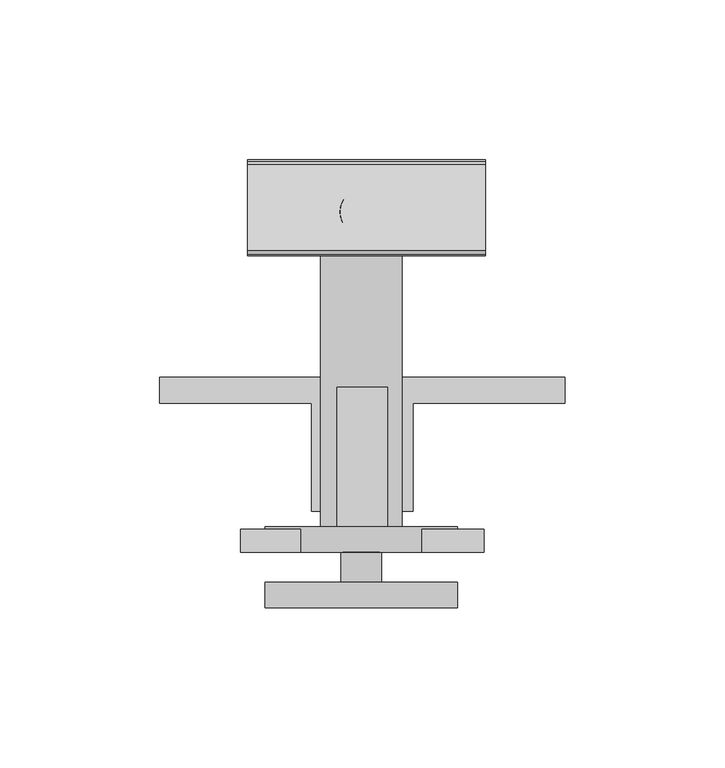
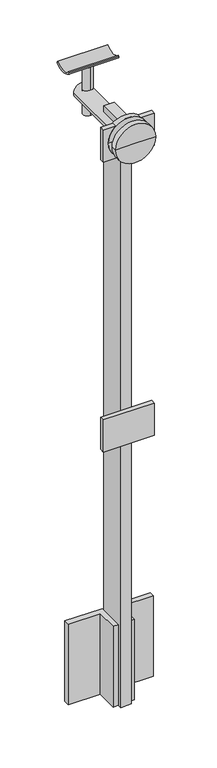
"""IFC4 building model written with IfcOpenShell, lengths in millimetres: proxy geometry, Baluster-End-Post-VIVA-STRUC-Top Mount-Stair : WELDED Fascia MOUNT STRUC_STAIR."""

from ifc_helpers import new_model, si_unit, point, frame, frame_2d, origin, place, context, project, spatial, polyline, circle_curve, trimmed, segment, composite_curve, outline, extrude, source, transform, mapped, element, save
from ifc_brep_helpers import plane_surface, cylinder_surface, advanced_brep


def building_element_proxy_1a12bf55(model_context):
    return source(origin(), model_context, "Body", "SolidModel", [
        advanced_brep(
        [(-30.4813346, -136.2128652, 88.3221555), (-6.6688346, -136.2128652, 88.3221555), (6.0311654, -136.2128652, 88.3221555), (29.8436654, -136.2128652, 88.3221555), (-30.4813346, -144.1503652, 88.3221555), (29.8436654, -144.1503652, 88.3221555), (-30.4813346, -118.7498509, 88.3221555), (-13.0188346, -118.7498509, 88.3221555), (12.3811654, -118.7498509, 88.3221555), (29.8436654, -118.7498509, 88.3221555), (-30.4813346, -126.6873509, 88.3221555), (29.8436654, -126.6873509, 88.3221555), (-0.3188346, -144.1503652, 88.3221555), (-13.0188346, -6.3880939, 88.3221555), (-0.3188346, -6.3880939, 88.3221555), (12.3811654, -6.3880939, 88.3221555), (-6.6688346, -126.6873509, 88.3221555), (6.0311654, -126.6873509, 88.3221555)],
        [
            (0, 1),
            (1, 2, circle_curve(frame((-0.3188346, -136.2128652, 88.3221555), z_axis=(0.0, -1.0, 0.0), x_axis=(1.0, 0.0, 0.0)), 6.35)),
            (2, 3),
            (3, 0, circle_curve(frame((-0.3188346, -136.2128652, 88.3221555), z_axis=(0.0, 1.0, 0.0), x_axis=(1.0, 0.0, 0.0)), 30.1625)),
            (4, 0),
            (3, 5),
            (5, 4, circle_curve(frame((-0.3188346, -144.1503652, 88.3221555), z_axis=(0.0, 1.0, 0.0), x_axis=(1.0, 0.0, 0.0)), 30.1625)),
            (6, 7),
            (7, 8, circle_curve(frame((-0.3188346, -118.7498509, 88.3221555), z_axis=(0.0, -1.0, 0.0), x_axis=(1.0, 0.0, 0.0)), 12.7)),
            (8, 9),
            (9, 6, circle_curve(frame((-0.3188346, -118.7498509, 88.3221555), z_axis=(0.0, 1.0, 0.0), x_axis=(1.0, 0.0, 0.0)), 30.1625)),
            (10, 6),
            (9, 11),
            (11, 10, circle_curve(frame((-0.3188346, -126.6873509, 88.3221555), z_axis=(0.0, 1.0, 0.0), x_axis=(1.0, 0.0, 0.0)), 30.1625)),
            (3, 0, circle_curve(frame((-0.3188346, -136.2128652, 88.3221555), z_axis=(0.0, -1.0, 0.0), x_axis=(1.0, 0.0, 0.0)), 30.1625)),
            (4, 5, circle_curve(frame((-0.3188346, -144.1503652, 88.3221555), z_axis=(0.0, 1.0, 0.0), x_axis=(1.0, 0.0, 0.0)), 30.1625)),
            (12, 4),
            (5, 12),
            (13, 14),
            (14, 15),
            (15, 13, circle_curve(frame((-0.3188346, -6.3880939, 88.3221555), z_axis=(0.0, 1.0, 0.0), x_axis=(1.0, 0.0, 0.0)), 12.7)),
            (13, 15, circle_curve(frame((-0.3188346, -6.3880939, 88.3221555), z_axis=(0.0, 1.0, 0.0), x_axis=(1.0, 0.0, 0.0)), 12.7)),
            (7, 13),
            (15, 8),
            (7, 8, circle_curve(frame((-0.3188346, -118.7498509, 88.3221555), z_axis=(0.0, 1.0, 0.0), x_axis=(1.0, 0.0, 0.0)), 12.7)),
            (6, 9, circle_curve(frame((-0.3188346, -118.7498509, 88.3221555), z_axis=(0.0, 1.0, 0.0), x_axis=(1.0, 0.0, 0.0)), 30.1625)),
            (10, 11, circle_curve(frame((-0.3188346, -126.6873509, 88.3221555), z_axis=(0.0, 1.0, 0.0), x_axis=(1.0, 0.0, 0.0)), 30.1625)),
            (16, 10),
            (11, 17),
            (17, 16, circle_curve(frame((-0.3188346, -126.6873509, 88.3221555), z_axis=(0.0, 1.0, 0.0), x_axis=(1.0, 0.0, 0.0)), 6.35)),
            (16, 17, circle_curve(frame((-0.3188346, -126.6873509, 88.3221555), z_axis=(0.0, 1.0, 0.0), x_axis=(1.0, 0.0, 0.0)), 6.35)),
            (1, 16),
            (17, 2),
            (1, 2, circle_curve(frame((-0.3188346, -136.2128652, 88.3221555), z_axis=(0.0, 1.0, 0.0), x_axis=(1.0, 0.0, 0.0)), 6.35)),
        ],
        [
            plane_surface(frame((-0.3188346, -136.2128652, 88.3221555), z_axis=(0.0, 1.0, 0.0), x_axis=(1.0, 0.0, 0.0))),
            cylinder_surface(frame((-0.3188346, -1650.6873509, 88.3221555), z_axis=(0.0, -1.0, 0.0), x_axis=(1.0, 0.0, 0.0)), 30.1625),
            plane_surface(frame((-0.3188346, -118.7498509, 88.3221555), z_axis=(0.0, 1.0, 0.0), x_axis=(1.0, 0.0, 0.0))),
            plane_surface(frame((-0.3188346, -144.1503652, 88.3221555), z_axis=(0.0, -1.0, 0.0), x_axis=(1.0, 0.0, 0.0))),
            plane_surface(frame((-0.3188346, -6.3880939, 88.3221555), z_axis=(0.0, 1.0, 0.0), x_axis=(1.0, 0.0, 0.0))),
            cylinder_surface(frame((-0.3188346, -1650.6873509, 88.3221555), z_axis=(0.0, -1.0, 0.0), x_axis=(1.0, 0.0, 0.0)), 12.7),
            plane_surface(frame((-0.3188346, -126.6873509, 88.3221555), z_axis=(0.0, -1.0, 0.0), x_axis=(1.0, 0.0, 0.0))),
            cylinder_surface(frame((-0.3188346, -1650.6873509, 88.3221555), z_axis=(0.0, -1.0, 0.0), x_axis=(1.0, 0.0, 0.0)), 6.35),
        ],
        [
            (0, [[1, 2, 3, 4]]),
            (1, [[5, -4, 6, 7]]),
            (2, [[8, 9, 10, 11]]),
            (1, [[12, -11, 13, 14]]),
            (1, [[-6, 15, -5, 16]]),
            (3, [[17, -7, 18]]),
            (3, [[-18, -16, -17]]),
            (4, [[19, 20, 21]]),
            (4, [[-20, -19, 22]]),
            (5, [[23, -21, 24, -9]]),
            (5, [[-24, -22, -23, 25]]),
            (2, [[-10, -25, -8, 26]]),
            (1, [[-13, -26, -12, 27]]),
            (6, [[28, -14, 29, 30]]),
            (6, [[-29, -27, -28, 31]]),
            (7, [[32, -30, 33, -2]]),
            (7, [[-33, -31, -32, 34]]),
            (0, [[-3, -34, -1, -15]]),
        ],
    ),
        extrude(outline(composite_curve([segment(trimmed(circle_curve(frame_2d((0.0, 7.0)), 7.0), [point((0.0, 14.0))], [point((0.0, 0.0))], False, "CARTESIAN"), True, "CONTINUOUS"), segment(trimmed(circle_curve(frame_2d((0.0, 7.0)), 7.0), [point((0.0, 0.0))], [point((0.0, 14.0))], False, "CARTESIAN"), True, "CONTINUOUS")], self_intersect=False)), frame((-0.0962106, -27.20249, 61.421192), z_axis=(0.0012664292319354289, 0.0, 0.9999991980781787), x_axis=(0.9999991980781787, 0.0, -0.0012664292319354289)), (0.0, 0.0, 1.0), 75.97),
        extrude(outline(composite_curve([segment(trimmed(circle_curve(frame_2d((18.6575251, 0.3952033)), 19.05), [point((5.2466064, 13.9247915))], [point((5.2466064, -13.134385))], True, "CARTESIAN"), True, "CONTINUOUS"), segment(polyline([(5.2466064, -13.134385), (4.2292193, -14.1607746)]), True, "CONTINUOUS"), segment(trimmed(circle_curve(frame_2d((3.1638974, -13.1047967)), 1.5), [point((4.2292193, -14.1607746))], [point((2.0329757, -14.0901982))], False, "CARTESIAN"), True, "CONTINUOUS"), segment(trimmed(circle_curve(frame_2d((18.6575251, 0.3952033)), 22.05), [point((2.0329757, -14.0901982))], [point((2.0329757, 14.8806047))], False, "CARTESIAN"), True, "CONTINUOUS"), segment(trimmed(circle_curve(frame_2d((3.1638974, 13.8952033)), 1.5), [point((2.0329757, 14.8806047))], [point((4.2292193, 14.9511811))], False, "CARTESIAN"), True, "CONTINUOUS"), segment(polyline([(4.2292193, 14.9511811), (5.2466064, 13.9247915)]), True, "CONTINUOUS")], self_intersect=False)), frame((-35.8856441, -18.4752577, 140.8100068), z_axis=(0.9999999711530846, 0.0, 0.0002401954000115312), x_axis=(-0.0002401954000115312, 0.0, 0.9999999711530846)), (0.0, 0.0, 1.0), 74.5229187),
        extrude(outline(polyline([(-38.1007192, -126.6869934), (-38.1007192, -119.5749934), (38.1007192, -119.5749934), (38.1007192, -126.6869934), (-38.1007192, -126.6869934)])), frame((0.0, 0.0, 61.2476928), z_axis=(0.0, 0.0, 1.0), x_axis=(1.0, 0.0, 0.0)), (0.0, 0.0, 1.0), 50.8),
        extrude(outline(polyline([(-38.1007192, -126.6869934), (-38.1007192, -119.5749934), (38.1007192, -119.5749934), (38.1007192, -126.6869934), (-38.1007192, -126.6869934)])), frame((0.0, 0.0, -395.9523072), z_axis=(0.0, 0.0, 1.0), x_axis=(1.0, 0.0, 0.0)), (0.0, 0.0, 1.0), 50.8),
        extrude(outline(polyline([(-7.9375, -113.7143584), (-15.9385, -113.7143584), (-15.9385, -79.9323584), (-63.4980216, -79.9323584), (-63.4980216, -71.8043584), (-7.9375, -71.8043584), (-7.9375, -113.7143584)])), frame((0.0, 0.0, -813.4521072), z_axis=(0.0, 0.0, 1.0), x_axis=(1.0, 0.0, 0.0)), (0.0, 0.0, 1.0), 127.0),
        extrude(outline(polyline([(7.9375, -113.7143584), (7.9375, -71.8043584), (63.4980216, -71.8043584), (63.4980216, -79.9323584), (15.9385, -79.9323584), (15.9385, -113.7143584), (7.9375, -113.7143584)])), frame((0.0, 0.0, -813.4521072), z_axis=(0.0, 0.0, 1.0), x_axis=(1.0, 0.0, 0.0)), (0.0, 0.0, 1.0), 127.0),
        extrude(outline(polyline([(-7.9375, -119.5749934), (-7.9375, -75.1249934), (7.9375, -75.1249934), (7.9375, -119.5749934), (-7.9375, -119.5749934)])), frame((0.0, 0.0, -813.4521072), z_axis=(0.0, 0.0, 1.0), x_axis=(1.0, 0.0, 0.0)), (0.0, 0.0, 1.0), 922.0866373),
    ])


if __name__ == "__main__":
    model = new_model("IFC4")
    model_context = context("Model", 3, world=origin())
    ifc_project = project(units=[si_unit("LENGTHUNIT", "METRE", prefix="MILLI")], contexts=[model_context])
    site = spatial("IfcSite", under=ifc_project)
    building = spatial("IfcBuilding", under=site)
    placement = place(None, origin())
    building_element_proxy_shape = building_element_proxy_1a12bf55(model_context)
    element("IfcBuildingElementProxy", 1, Name="Baluster-End-Post-VIVA-STRUC-Top Mount-Stair : WELDED Fascia MOUNT STRUC_STAIR", ObjectType="Baluster-End-Post-VIVA-STRUC-Top Mount-Stair : WELDED Fascia MOUNT STRUC_STAIR", at=placement, inside=building, context=model_context, shape_type="MappedRepresentation", body=[
        mapped(building_element_proxy_shape, transform((0.0, 0.0, 0.0), x_axis=(1.0, 0.0, 0.0), y_axis=(0.0, 1.0, 0.0), z_axis=(0.0, 0.0, 1.0))),
    ])
    save(model, "model.ifc")
